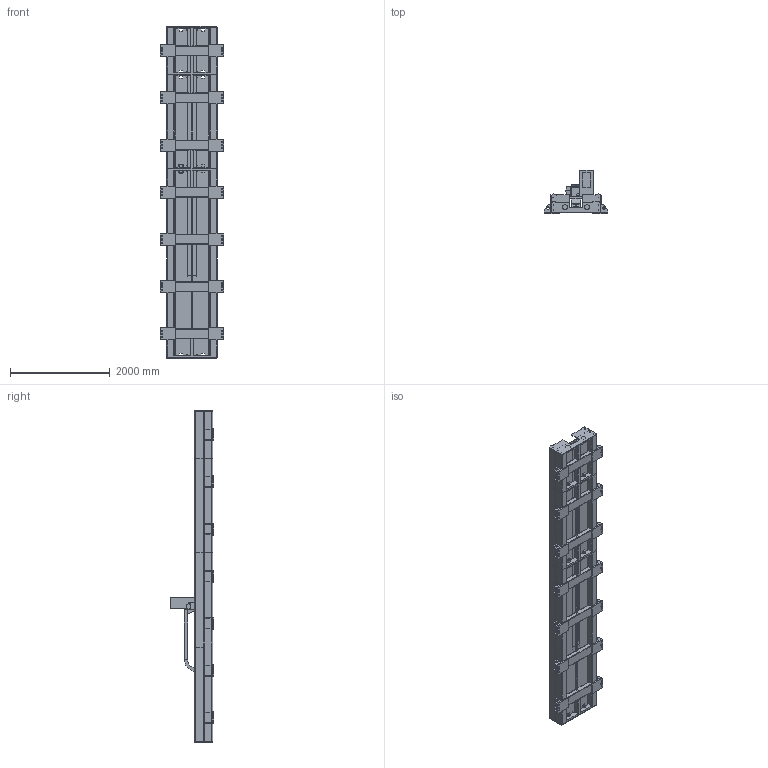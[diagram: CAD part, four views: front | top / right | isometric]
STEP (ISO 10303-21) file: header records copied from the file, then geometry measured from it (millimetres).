
FILE_DESCRIPTION (( 'STEP AP203' ), '1' );
FILE_NAME ('AUT-SW-X-Z-M-XXXX.STEP', '2021-09-07T01:41:36', ( 'Microsoft' ), ( 'Microsoft' ), 'SwSTEP 2.0', 'SolidWorks 2020', '' );
FILE_SCHEMA (( 'CONFIG_CONTROL_DESIGN' ));
Length unit declared in the file: millimetre
Products named in the file (1): AUT-SW-X-Z-M-XXXX
Bounding box: 1270 x 876 x 6648.27 mm (x, y, z)
Surface area: 40968051.4 mm2 (no closed solid volume)
Topology: 0 solids, 91 shells, 1511 faces, 5958 edges, 4429 vertices
Faces by surface type: plane 850, cylinder 654, cone 7
Entity records: 63313 total; most frequent: CARTESIAN_POINT 12093, DIRECTION 11087, ORIENTED_EDGE 8840, EDGE_CURVE 5958, VERTEX_POINT 4429, LINE 3783, VECTOR 3783, AXIS2_PLACEMENT_3D 3652
